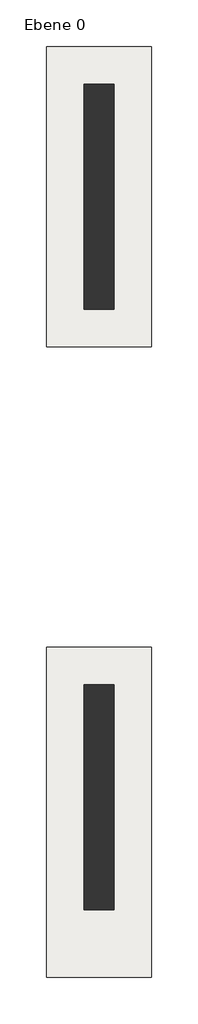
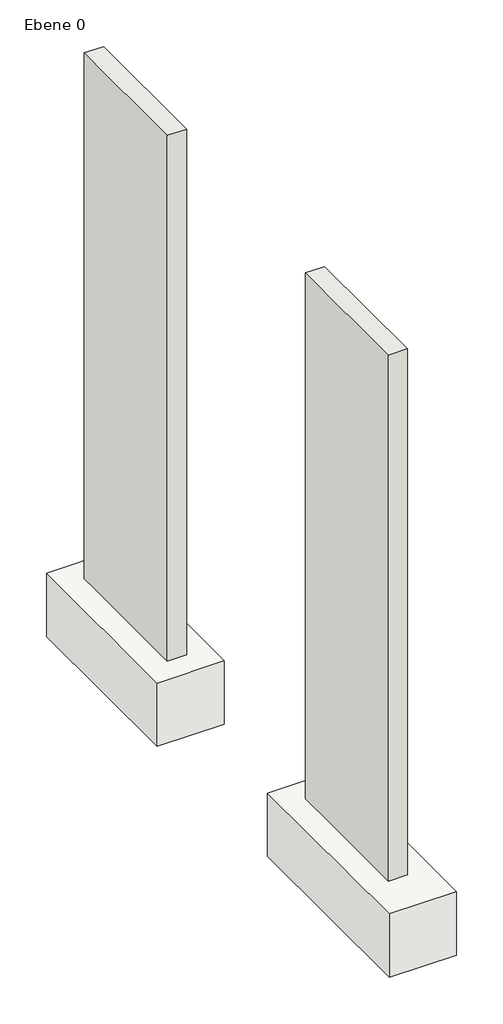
# One storey: 1 footing, 1 wall.
"""IFC4 building model written with IfcOpenShell, lengths in millimetres."""

import ifcopenshell
import ifcopenshell.guid

model = None  # the IFC model being written
_history = None  # IfcOwnerHistory: only IFC2X3 demands one
_inside = {}  # id of a spatial element -> (the spatial element, [elements in it])
_under = {}  # id of a project, library or spatial element -> (it, [spatial elements below it])
_declared = {}  # id of a project -> (the project, [libraries it declares])
_typed = {}  # id of a type object -> (the type object, [elements of that type])
_made_of = {}  # id of a material, layer set ... -> (it, [elements and type objects made of it])


def new_model(schema):
    """Start an empty IFC model of exactly this schema.

    Asked for "IFC4X3", IfcOpenShell would pick the latest addendum, in which some entities
    have other attributes; the version numbers below select the first issue.
    IFC2X3 requires an IfcOwnerHistory on every rooted entity: one is made here for all.
    """
    global model, _history
    if schema == "IFC4X3":
        model = ifcopenshell.file(schema_version=(4, 3, 0, 0))
    else:
        model = ifcopenshell.file(schema=schema)
    _inside.clear()
    _under.clear()
    _declared.clear()
    _typed.clear()
    _made_of.clear()
    _history = None
    if model.schema == "IFC2X3":
        org = make("IfcOrganization", Name="unknown")
        user = make(
            "IfcPersonAndOrganization",
            ThePerson=make("IfcPerson", FamilyName="unknown"),
            TheOrganization=org,
        )
        app = make(
            "IfcApplication",
            ApplicationDeveloper=org,
            Version="unknown",
            ApplicationFullName="unknown",
            ApplicationIdentifier="unknown",
        )
        _history = make(
            "IfcOwnerHistory",
            OwningUser=user,
            OwningApplication=app,
            ChangeAction="ADDED",
            CreationDate=0,
        )
    return model


def make(cls, **values):
    """One entity of the class cls with the attributes given. An attribute that is None is left unset."""
    return model.create_entity(
        cls, **{name: value for name, value in values.items() if value is not None}
    )


def rooted(cls, **values):
    """An entity with a GlobalId (a new one), such as an element, a storey or a relation."""
    return make(cls, GlobalId=ifcopenshell.guid.new(), OwnerHistory=_history, **values)


def si_unit(unit_type, name, prefix=None):
    """IfcSIUnit, for example si_unit("LENGTHUNIT", "METRE", prefix="MILLI")."""
    return make("IfcSIUnit", UnitType=unit_type, Prefix=prefix, Name=name)


def assignment(units):
    """IfcUnitAssignment: the units of a project."""
    return None if units is None else make("IfcUnitAssignment", Units=units)


def point(xyz):
    """IfcCartesianPoint."""
    return None if xyz is None else make("IfcCartesianPoint", Coordinates=xyz)


def direction(xyz):
    """IfcDirection."""
    return None if xyz is None else make("IfcDirection", DirectionRatios=xyz)


def frame(location, z_axis=None, x_axis=None):
    """IfcAxis2Placement3D, a coordinate frame: its origin and axes. An axis left out is left unset."""
    return make(
        "IfcAxis2Placement3D",
        Location=point(location),
        Axis=direction(z_axis),
        RefDirection=direction(x_axis),
    )


def origin():
    """The frame at (0, 0, 0) with its axes left unset."""
    return frame((0.0, 0.0, 0.0))


def place(relative_to, where):
    """IfcLocalPlacement: puts the frame where relative to a parent placement (None: the world)."""
    return make(
        "IfcLocalPlacement", PlacementRelTo=relative_to, RelativePlacement=where
    )


def context(
    kind, dimensions, precision=None, world=None, true_north=None, identifier=None
):
    """IfcGeometricRepresentationContext, for example the 3D "Model" context."""
    return make(
        "IfcGeometricRepresentationContext",
        ContextIdentifier=identifier,
        ContextType=kind,
        CoordinateSpaceDimension=dimensions,
        Precision=precision,
        WorldCoordinateSystem=world,
        TrueNorth=true_north,
    )


def project(units=None, contexts=None):
    """IfcProject with its units and contexts."""
    return rooted(
        "IfcProject",
        Name="project",
        RepresentationContexts=contexts,
        UnitsInContext=assignment(units),
    )


def spatial(cls, under=None, at=None, **own):
    """A site, building, storey or space (cls), placed at a placement, below another one or the project."""
    s = rooted(cls, ObjectPlacement=at, **own)
    if under is not None:
        _under.setdefault(under.id(), (under, []))[1].append(s)
    return s


def polyline(points):
    """IfcPolyline through the points."""
    return make("IfcPolyline", Points=[point(p) for p in points])


def outline(outer, holes=None, kind="AREA"):
    """IfcArbitraryClosedProfileDef: a profile drawn as a closed curve; with holes, ...WithVoids."""
    if holes is None:
        return make("IfcArbitraryClosedProfileDef", ProfileType=kind, OuterCurve=outer)
    return make(
        "IfcArbitraryProfileDefWithVoids",
        ProfileType=kind,
        OuterCurve=outer,
        InnerCurves=holes,
    )


def extrude(swept, where, along, depth):
    """IfcExtrudedAreaSolid: the profile swept, set in the frame where, extruded along a direction by depth."""
    return make(
        "IfcExtrudedAreaSolid",
        SweptArea=swept,
        Position=where,
        ExtrudedDirection=direction(along),
        Depth=depth,
    )


def shape(context_of_items, identifier, shape_type, items):
    """IfcShapeRepresentation: the items that make up one representation, for example the "Body"."""
    return make(
        "IfcShapeRepresentation",
        ContextOfItems=context_of_items,
        RepresentationIdentifier=identifier,
        RepresentationType=shape_type,
        Items=items,
    )


def made_of(thing, what):
    """Note that an element or type object is made of a material, layer set ...; save() writes the relation."""
    if what is not None:
        _made_of.setdefault(what.id(), (what, []))[1].append(thing)
    return thing


def element(
    cls,
    number,
    at=None,
    inside=None,
    cuts=None,
    type_object=None,
    material=None,
    context=None,
    identifier="Body",
    shape_type=None,
    held_by="IfcProductDefinitionShape",
    body=None,
    shapes=None,
    **own,
):
    """One element of the class cls, such as IfcWall. Its Tag is "e" and its number.

    at: its placement. inside: the storey or other place that contains it. cuts: it is an
    opening in that element (IfcRelVoidsElement). A single representation is given by context,
    identifier, shape_type and body (its items); several are given by shapes. held_by: the class
    of the entity that holds the representations. save() writes the other relations.
    """
    e = rooted(cls, Tag="e%d" % number, ObjectPlacement=at, **own)
    if body is not None:
        shapes = [shape(context, identifier, shape_type, body)]
    if shapes is not None:
        e.Representation = make(held_by, Representations=shapes)
    if inside is not None:
        _inside.setdefault(inside.id(), (inside, []))[1].append(e)
    if cuts is not None:
        rooted(
            "IfcRelVoidsElement", RelatingBuildingElement=cuts, RelatedOpeningElement=e
        )
    if type_object is not None:
        _typed.setdefault(type_object.id(), (type_object, []))[1].append(e)
    return made_of(e, material)


def aggregate(whole, parts):
    """IfcRelAggregates: a whole, such as a stair, and the parts it consists of."""
    return rooted("IfcRelAggregates", RelatingObject=whole, RelatedObjects=parts)


def save(model, path):
    """Write the relations noted so far, then the file.

    IfcRelAggregates (storeys below a building ...), IfcRelContainedInSpatialStructure (elements
    in a storey), IfcRelDefinesByType, IfcRelAssociatesMaterial and IfcRelDeclares: one each for
    every whole, place, type object, material and project.
    """
    for whole, parts in _under.values():
        aggregate(whole, parts)
    for where, things in _inside.values():
        rooted(
            "IfcRelContainedInSpatialStructure",
            RelatedElements=things,
            RelatingStructure=where,
        )
    for kind, things in _typed.values():
        rooted("IfcRelDefinesByType", RelatedObjects=things, RelatingType=kind)
    for what, things in _made_of.values():
        rooted("IfcRelAssociatesMaterial", RelatedObjects=things, RelatingMaterial=what)
    for by, libraries in _declared.values():
        rooted("IfcRelDeclares", RelatingContext=by, RelatedDefinitions=libraries)
    model.write(path)


model = new_model("IFC4")

# Units and contexts
model_context = context("Model", 3, world=origin())
ifc_project = project(units=[si_unit("LENGTHUNIT", "METRE", prefix="MILLI")], contexts=[model_context])

# Site, building, storey
site = spatial("IfcSite", under=ifc_project)
building = spatial("IfcBuilding", under=site)
storey = spatial("IfcBuildingStorey", under=building, Name="Ebene 0", Elevation=0.0)

# Footing
placement = place(None, origin())
element("IfcFooting", 1, ObjectType="Wandfundament", at=placement, inside=storey, context=model_context, shape_type="SweptSolid", body=[
    extrude(outline(polyline([(-43189.0446018, 12663.3191186), (-43889.0446018, 12663.3191186), (-43889.0446018, 14863.3191186), (-43189.0446018, 14863.3191186), (-43189.0446018, 12663.3191186)])), frame((0.0, 0.0, -1000.0), z_axis=(0.0, 0.0, 1.0), x_axis=(1.0, 0.0, 0.0)), (0.0, 0.0, 1.0), 700.0),
    extrude(outline(polyline([(-43189.0446018, 16863.3191186), (-43889.0446018, 16863.3191186), (-43889.0446018, 18863.3191186), (-43189.0446018, 18863.3191186), (-43189.0446018, 16863.3191186)])), frame((0.0, 0.0, -1000.0), z_axis=(0.0, 0.0, 1.0), x_axis=(1.0, 0.0, 0.0)), (0.0, 0.0, 1.0), 700.0),
])

# Wall
element("IfcWall", 2, ObjectType="Stahlbeton 20cm", at=placement, inside=storey, context=model_context, shape_type="SweptSolid", body=[
    extrude(outline(polyline([(-43639.0446018, 18613.3191186), (-43439.0446018, 18613.3191186), (-43439.0446018, 17113.3191186), (-43639.0446018, 17113.3191186), (-43639.0446018, 18613.3191186)])), frame((0.0, 0.0, -300.0), z_axis=(0.0, 0.0, 1.0), x_axis=(1.0, 0.0, 0.0)), (0.0, 0.0, 1.0), 5800.0),
    extrude(outline(polyline([(-43439.0446018, 13113.3191186), (-43639.0446018, 13113.3191186), (-43639.0446018, 14613.3191186), (-43439.0446018, 14613.3191186), (-43439.0446018, 13113.3191186)])), frame((0.0, 0.0, -300.0), z_axis=(0.0, 0.0, 1.0), x_axis=(1.0, 0.0, 0.0)), (0.0, 0.0, 1.0), 5800.0),
])

save(model, "model.ifc")
